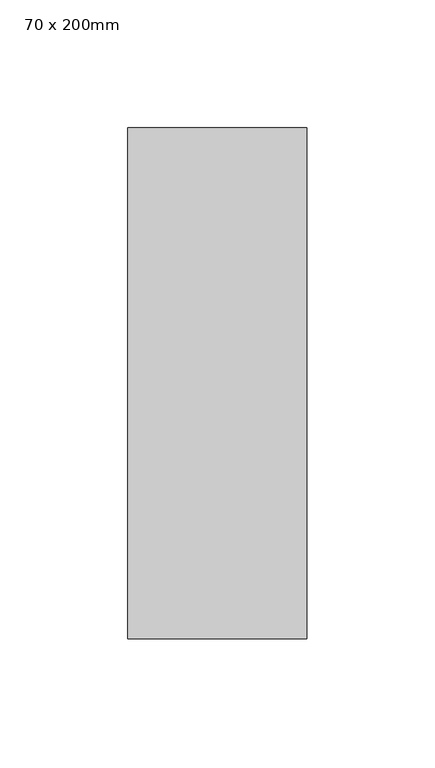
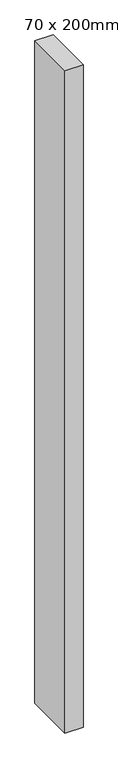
"""IFC4 building model written with IfcOpenShell, lengths in millimetres: member geometry, 矩形竖梃 : 70 x 200mm."""

from ifc_helpers import new_model, si_unit, frame, origin, place, context, project, spatial, polyline, outline, extrude, source, transform, mapped, element, save


def member_70_x_200mm_47bebe16(model_context):
    return source(origin(), model_context, "Body", "SweptSolid", [
        extrude(outline(polyline([(0.0, 100.0), (0.0, -100.0), (-70.0, -100.0), (-70.0, 100.0), (0.0, 100.0)])), frame((0.0, 0.0, -2700.0), z_axis=(0.0, 0.0, 1.0), x_axis=(1.0, 0.0, 0.0)), (0.0, 0.0, 1.0), 2700.0),
    ])


if __name__ == "__main__":
    model = new_model("IFC4")
    model_context = context("Model", 3, world=origin())
    ifc_project = project(units=[si_unit("LENGTHUNIT", "METRE", prefix="MILLI")], contexts=[model_context])
    site = spatial("IfcSite", under=ifc_project)
    building = spatial("IfcBuilding", under=site)
    placement = place(None, origin())
    member_70_x_200mm_shape = member_70_x_200mm_47bebe16(model_context)
    element("IfcMember", 1, ObjectType="矩形竖梃 : 70 x 200mm", at=placement, inside=building, context=model_context, shape_type="MappedRepresentation", body=[
        mapped(member_70_x_200mm_shape, transform((0.0, 0.0, 0.0), x_axis=(1.0, 0.0, 0.0), y_axis=(0.0, 1.0, 0.0), z_axis=(0.0, 0.0, 1.0))),
    ])
    save(model, "model.ifc")
